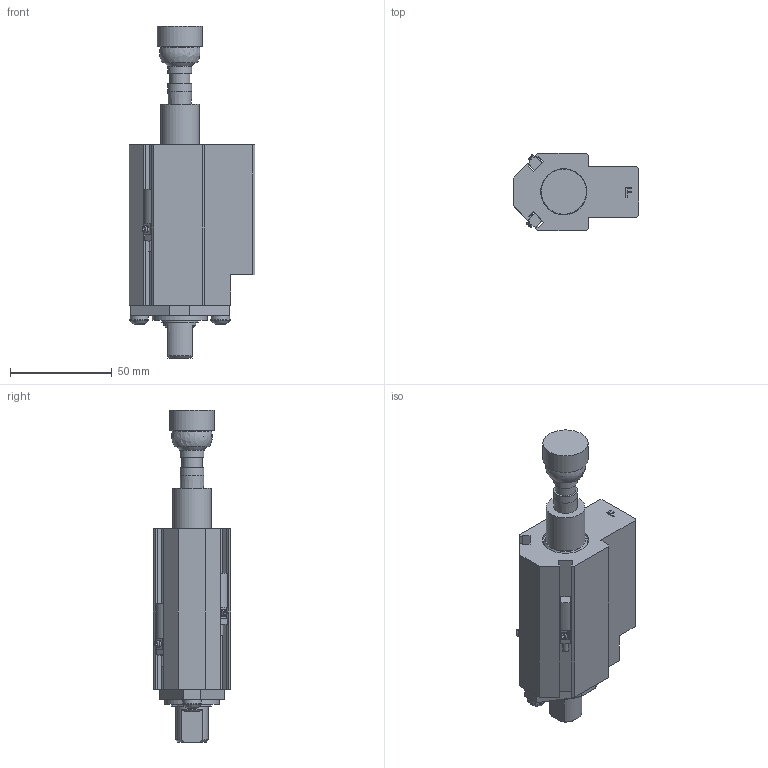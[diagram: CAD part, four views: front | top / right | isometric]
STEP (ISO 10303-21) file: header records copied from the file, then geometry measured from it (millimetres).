
FILE_DESCRIPTION(/* description */ ('MINI PASS THRU GROUND BLOCK'),/* implementation_level */ '2;1');
FILE_NAME(/* name */ 'C:\Vault Workspace\CAD\Welker\Cylinders\GBM\GBMEFL3.stp',/* time_stamp */ '2021-06-25T07:34:45-04:00',/* author */ ('KPL'),/* organization */ (''),/* preprocessor_version */ 'ST-DEVELOPER v18.1',/* originating_system */ 'Autodesk Inventor 2020',/* authorisation */ '');
FILE_SCHEMA (('AUTOMOTIVE_DESIGN { 1 0 10303 214 3 1 1 }'));
Products named in the file (11): GBML01; 91590A126; 96100A152; L3 Sensor 1; M5X0.8-10 BHCS; NL5; GBME01F; GBME02; GBME04; SN-147; AN-05U2145
Assembly tree (13 placements, depth 2):
  GBML01
    91590A126
    96100A152
    L3 Sensor 1  x2
    M5X0.8-10 BHCS  x2
    NL5  x2
    GBME01F
    GBME02
    GBME04
    SN-147
    AN-05U2145
Bounding box: 62 x 38.1 x 163.5 mm (x, y, z)
Volume: 136086.9 mm3; surface area: 49053.3 mm2
Topology: 13 solids, 13 shells, 439 faces, 1207 edges, 808 vertices
Faces by surface type: plane 310, cylinder 97, cone 22, torus 4, sphere 4, bspline 2
Full cylindrical faces by diameter (mm): 1.194 x2, 2.9 x2, 4.134 x2, 5 x2, 5.4 x2, 5.5 x2, 6.647 x1, 8 x2, 8.376 x2, 9 x2, 9.5 x2, 10 x1, 11.76 x2, 14.935 x1, 15.875 x3, 16.383 x1, 19.05 x1, 19.177 x1, 22.225 x3, 22.784 x1, 24.613 x1, 25.654 x1, 25.705 x1, 26.987 x1, 28.591 x1, 28.667 x1
Entity records: 10040 total; most frequent: CARTESIAN_POINT 1751, DIRECTION 1675, ORIENTED_EDGE 1586, EDGE_CURVE 793, AXIS2_PLACEMENT_3D 579, VERTEX_POINT 545, LINE 517, VECTOR 517
